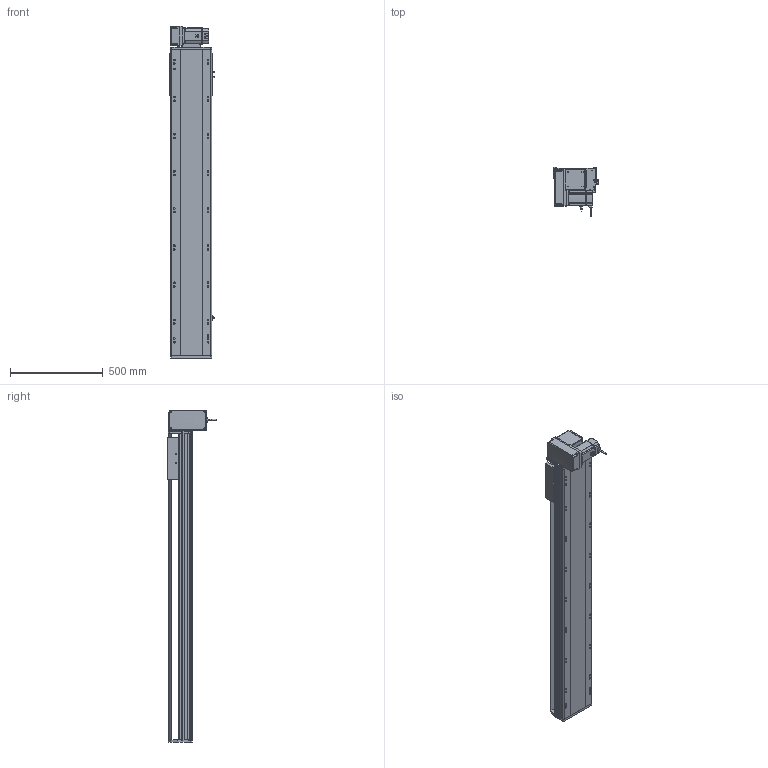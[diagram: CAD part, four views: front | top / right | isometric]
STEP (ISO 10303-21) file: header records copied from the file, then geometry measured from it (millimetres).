
FILE_DESCRIPTION (( 'STEP AP214' ), '1' );
FILE_NAME ('RTB22S-XX-1300-LM-M75-C4.STEP', '2025-12-12T03:51:17', ( '' ), ( '' ), 'SwSTEP 2.0', 'SolidWorks 2018', '' );
FILE_SCHEMA (( 'AUTOMOTIVE_DESIGN' ));
Length unit declared in the file: millimetre
Products named in the file (14): RTB22S-GY-001耜裔^RTB22S-XX-XX-LM-M75-C4; RTH22-GY-013外置感应片^RTB22S-XX-XX-LM-M75-C4; RTB22S-XX-1300-LM-M75-C4; RTB22S-L-011菁釱^RTB22S-XX-XX-LM-M75-C4; RTB22S-GY-017P^RMP22S-LM-々湍釱蚾饜_RTB22S-XX-XX-LM-M75-C4; RTB22S-GY-014--々湍釱^RMP22S-LM-々湍釱蚾饜_RTB22S-XX-XX-LM-M75-C4; OMRON EE-SX672 传感器^RTB22S-XX-XX-LM-M75-C4; 750W萇儂^RTB22S-XX-XX-LM-M75-C4; RTB22S-GY-008-M75--萇儂啣^RMP22S-LM-々湍釱蚾饜_RTB22S-XX-XX-LM-M75-C4; RTB22S-L-004賑釱^RTB22S-XX-XX-LM-M75-C4; RTB22S-GY-007奻裔^RTB22S-XX-XX-LM-M75-C4; RTB22S-GY-005P^RMP22S-LM-々湍釱蚾饜_RTB22S-XX-XX-LM-M75-C4; RTB22S-GY-018P^RMP22S-LM-々湍釱蚾饜_RTB22S-XX-XX-LM-M75-C4; RMP22S-LM-々湍釱蚾饜^RTB22S-XX-XX-LM-M75-C4
Assembly tree (16 placements, depth 3):
  RTB22S-XX-1300-LM-M75-C4
    RTB22S-L-011菁釱^RTB22S-XX-XX-LM-M75-C4
    RTB22S-GY-001耜裔^RTB22S-XX-XX-LM-M75-C4
    750W萇儂^RTB22S-XX-XX-LM-M75-C4
    RTB22S-GY-007奻裔^RTB22S-XX-XX-LM-M75-C4
    RTB22S-L-004賑釱^RTB22S-XX-XX-LM-M75-C4
    RTH22-GY-013外置感应片^RTB22S-XX-XX-LM-M75-C4
    OMRON EE-SX672 传感器^RTB22S-XX-XX-LM-M75-C4  x3
    RMP22S-LM-々湍釱蚾饜^RTB22S-XX-XX-LM-M75-C4
      RTB22S-GY-014--々湍釱^RMP22S-LM-々湍釱蚾饜_RTB22S-XX-XX-LM-M75-C4
      RTB22S-GY-017P^RMP22S-LM-々湍釱蚾饜_RTB22S-XX-XX-LM-M75-C4  x2
      RTB22S-GY-005P^RMP22S-LM-々湍釱蚾饜_RTB22S-XX-XX-LM-M75-C4
      RTB22S-GY-008-M75--萇儂啣^RMP22S-LM-々湍釱蚾饜_RTB22S-XX-XX-LM-M75-C4
      RTB22S-GY-018P^RMP22S-LM-々湍釱蚾饜_RTB22S-XX-XX-LM-M75-C4
Bounding box: 238.5 x 264.7 x 1787.5 mm (x, y, z)
Volume: 24782881.2 mm3; surface area: 2566222.1 mm2
Topology: 15 solids, 15 shells, 2001 faces, 5436 edges, 3482 vertices
Faces by surface type: plane 917, cylinder 634, bspline 296, cone 142, sphere 8, torus 4
Entity records: 53426 total; most frequent: CARTESIAN_POINT 15320, ORIENTED_EDGE 7652, DIRECTION 7380, EDGE_CURVE 3826, AXIS2_PLACEMENT_3D 2610, VERTEX_POINT 2486, LINE 2160, VECTOR 2160
